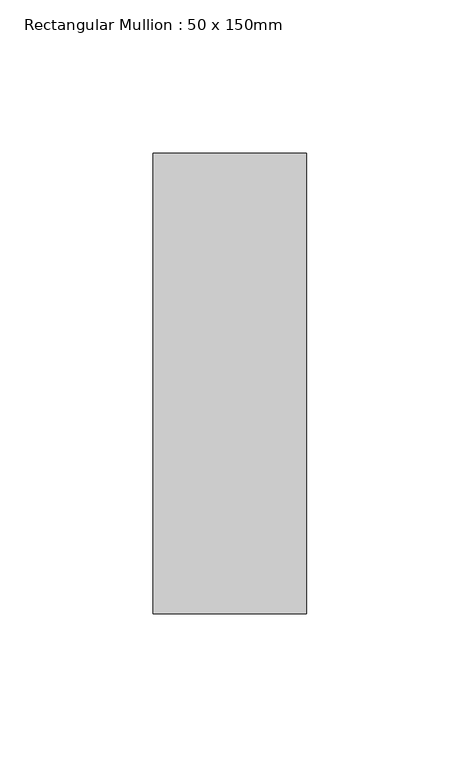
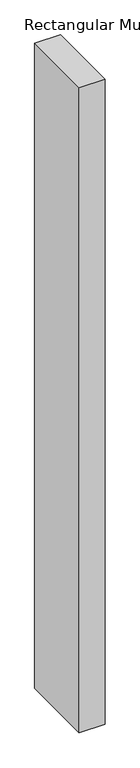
"""IFC4 building model written with IfcOpenShell, lengths in millimetres: member geometry, Rectangular Mullion : 50 x 150mm."""

from ifc_helpers import new_model, si_unit, frame, origin, place, context, project, spatial, polyline, outline, extrude, source, transform, mapped, element, save


def rectangular_mullion_50_x_150mm_b83c4d09(model_context):
    return source(origin(), model_context, "Body", "SweptSolid", [
        extrude(outline(polyline([(0.0, 75.0), (0.0, -75.0), (-50.0, -75.0), (-50.0, 75.0), (0.0, 75.0)])), frame((0.0, 0.0, -1326.4926729), z_axis=(0.0, 0.0, 1.0), x_axis=(1.0, 0.0, 0.0)), (0.0, 0.0, 1.0), 1326.4926729),
    ])


if __name__ == "__main__":
    model = new_model("IFC4")
    model_context = context("Model", 3, world=origin())
    ifc_project = project(units=[si_unit("LENGTHUNIT", "METRE", prefix="MILLI")], contexts=[model_context])
    site = spatial("IfcSite", under=ifc_project)
    building = spatial("IfcBuilding", under=site)
    placement = place(None, origin())
    rectangular_mullion_50_x_150mm_shape = rectangular_mullion_50_x_150mm_b83c4d09(model_context)
    element("IfcMember", 1, ObjectType="Rectangular Mullion : 50 x 150mm", at=placement, inside=building, context=model_context, shape_type="MappedRepresentation", body=[
        mapped(rectangular_mullion_50_x_150mm_shape, transform((0.0, 0.0, 0.0), x_axis=(1.0, 0.0, 0.0), y_axis=(0.0, 1.0, 0.0), z_axis=(0.0, 0.0, 1.0))),
    ])
    save(model, "model.ifc")
